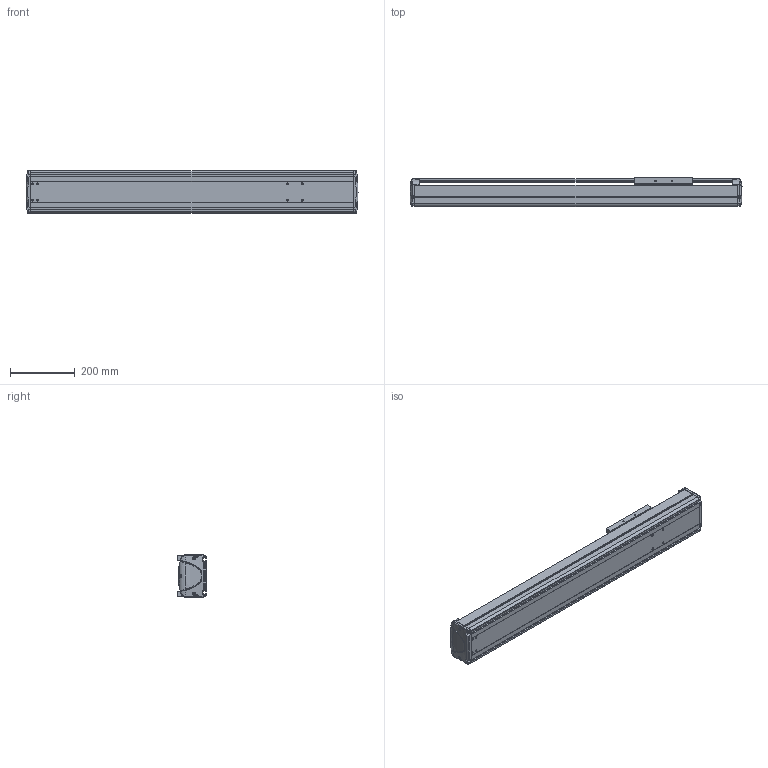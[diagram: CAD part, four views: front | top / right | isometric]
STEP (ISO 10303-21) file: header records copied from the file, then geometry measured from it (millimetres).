
FILE_DESCRIPTION((''),'2;1');
FILE_NAME('BE30E-ST-L_B-65_IGS_PRT','2017-06-17T',(' '),(''),'PRO/ENGINEER BY PARAMETRIC TECHNOLOGY CORPORATION, 2015030','PRO/ENGINEER BY PARAMETRIC TECHNOLOGY CORPORATION, 2015030','');
FILE_SCHEMA(('CONFIG_CONTROL_DESIGN'));
Length unit declared in the file: millimetre
Products named in the file (1): BE30E-ST-L_B-65_IGS_PRT
Bounding box: 1025 x 89.8 x 130 mm (x, y, z)
Volume: 3204687.9 mm3; surface area: 1262636.5 mm2
Topology: 3 solids, 86 shells, 1354 faces, 3641 edges, 2385 vertices
Faces by surface type: cylinder 611, plane 590, bspline 55, torus 44, cone 30, sphere 24
Entity records: 45500 total; most frequent: CARTESIAN_POINT 11410, DIRECTION 7034, ORIENTED_EDGE 6916, EDGE_CURVE 3621, AXIS2_PLACEMENT_3D 2544, VERTEX_POINT 2385, VECTOR 1946, LINE 1946
